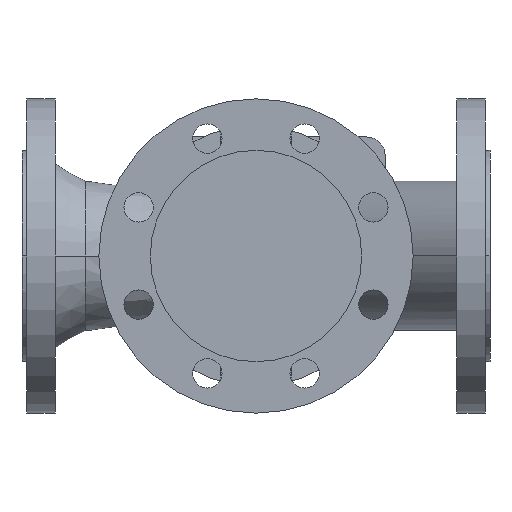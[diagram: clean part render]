
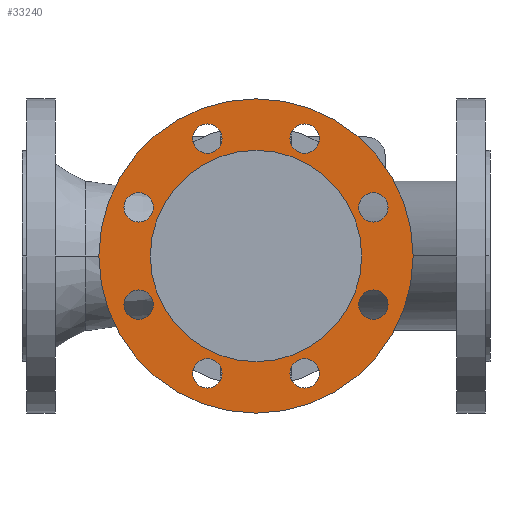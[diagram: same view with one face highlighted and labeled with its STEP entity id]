
A CAD part, front view. The second image highlights one B-rep face of the part: STEP entity #33240.
In plain terms, the highlighted planar face has unit normal (0, -1, 0).
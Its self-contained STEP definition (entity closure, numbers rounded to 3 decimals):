
#3320=CARTESIAN_POINT('',(96.,-146.5,0.));
#3330=VERTEX_POINT('',#3320);
#3380=CARTESIAN_POINT('',(175.,-146.5,0.));
#3390=DIRECTION('',(0.,-1.,0.));
#3400=DIRECTION('',(1.,0.,0.));
#3410=AXIS2_PLACEMENT_3D('',#3380,#3390,#3400);
#3420=CIRCLE('',#3410,79.);
#3430=CARTESIAN_POINT('',(254.,-146.5,0.));
#3440=VERTEX_POINT('',#3430);
#3450=EDGE_CURVE('',#3440,#3330,#3420,.T.);
#10480=CARTESIAN_POINT('',(57.5,-146.5,0.));
#10490=VERTEX_POINT('',#10480);
#10520=CARTESIAN_POINT('',(175.,-146.5,0.));
#10530=DIRECTION('',(0.,1.,0.));
#10540=DIRECTION('',(1.,0.,0.));
#10550=AXIS2_PLACEMENT_3D('',#10520,#10530,#10540);
#10560=CIRCLE('',#10550,117.5);
#10570=CARTESIAN_POINT('',(292.5,-146.5,0.));
#10580=VERTEX_POINT('',#10570);
#10590=EDGE_CURVE('',#10580,#10490,#10560,.T.);
#10900=CARTESIAN_POINT('',(273.769,-146.5,-36.355));
#10910=VERTEX_POINT('',#10900);
#10940=CARTESIAN_POINT('',(262.769,-146.5,-36.355));
#10950=DIRECTION('',(0.,1.,0.));
#10960=DIRECTION('',(1.,0.,0.));
#10970=AXIS2_PLACEMENT_3D('',#10940,#10950,#10960);
#10980=CIRCLE('',#10970,11.);
#10990=CARTESIAN_POINT('',(251.769,-146.5,-36.355));
#11000=VERTEX_POINT('',#10990);
#11010=EDGE_CURVE('',#10910,#11000,#10980,.T.);
#11320=CARTESIAN_POINT('',(273.769,-146.5,36.355));
#11330=VERTEX_POINT('',#11320);
#11490=CARTESIAN_POINT('',(251.769,-146.5,36.355));
#11500=VERTEX_POINT('',#11490);
#11530=CARTESIAN_POINT('',(262.769,-146.5,36.355));
#11540=DIRECTION('',(0.,1.,0.));
#11550=DIRECTION('',(1.,0.,0.));
#11560=AXIS2_PLACEMENT_3D('',#11530,#11540,#11550);
#11570=CIRCLE('',#11560,11.);
#11580=EDGE_CURVE('',#11500,#11330,#11570,.T.);
#11740=CARTESIAN_POINT('',(222.355,-146.5,-87.769));
#11750=VERTEX_POINT('',#11740);
#11780=CARTESIAN_POINT('',(211.355,-146.5,-87.769));
#11790=DIRECTION('',(0.,1.,0.));
#11800=DIRECTION('',(1.,0.,0.));
#11810=AXIS2_PLACEMENT_3D('',#11780,#11790,#11800);
#11820=CIRCLE('',#11810,11.);
#11830=CARTESIAN_POINT('',(200.355,-146.5,-87.769));
#11840=VERTEX_POINT('',#11830);
#11850=EDGE_CURVE('',#11750,#11840,#11820,.T.);
#12160=CARTESIAN_POINT('',(222.355,-146.5,87.769));
#12170=VERTEX_POINT('',#12160);
#12330=CARTESIAN_POINT('',(200.355,-146.5,87.769));
#12340=VERTEX_POINT('',#12330);
#12370=CARTESIAN_POINT('',(211.355,-146.5,87.769));
#12380=DIRECTION('',(0.,1.,0.));
#12390=DIRECTION('',(1.,0.,0.));
#12400=AXIS2_PLACEMENT_3D('',#12370,#12380,#12390);
#12410=CIRCLE('',#12400,11.);
#12420=EDGE_CURVE('',#12340,#12170,#12410,.T.);
#12580=CARTESIAN_POINT('',(127.645,-146.5,-87.769));
#12590=VERTEX_POINT('',#12580);
#12620=CARTESIAN_POINT('',(138.645,-146.5,-87.769));
#12630=DIRECTION('',(0.,1.,0.));
#12640=DIRECTION('',(1.,0.,0.));
#12650=AXIS2_PLACEMENT_3D('',#12620,#12630,#12640);
#12660=CIRCLE('',#12650,11.);
#12670=CARTESIAN_POINT('',(149.645,-146.5,-87.769));
#12680=VERTEX_POINT('',#12670);
#12690=EDGE_CURVE('',#12590,#12680,#12660,.T.);
#13000=CARTESIAN_POINT('',(149.645,-146.5,87.769));
#13010=VERTEX_POINT('',#13000);
#13040=CARTESIAN_POINT('',(138.645,-146.5,87.769));
#13050=DIRECTION('',(0.,1.,0.));
#13060=DIRECTION('',(1.,0.,0.));
#13070=AXIS2_PLACEMENT_3D('',#13040,#13050,#13060);
#13080=CIRCLE('',#13070,11.);
#13090=CARTESIAN_POINT('',(127.645,-146.5,87.769));
#13100=VERTEX_POINT('',#13090);
#13110=EDGE_CURVE('',#13010,#13100,#13080,.T.);
#13420=CARTESIAN_POINT('',(98.231,-146.5,-36.355));
#13430=VERTEX_POINT('',#13420);
#13590=CARTESIAN_POINT('',(76.231,-146.5,-36.355));
#13600=VERTEX_POINT('',#13590);
#13630=CARTESIAN_POINT('',(87.231,-146.5,-36.355));
#13640=DIRECTION('',(0.,1.,0.));
#13650=DIRECTION('',(1.,0.,0.));
#13660=AXIS2_PLACEMENT_3D('',#13630,#13640,#13650);
#13670=CIRCLE('',#13660,11.);
#13680=EDGE_CURVE('',#13600,#13430,#13670,.T.);
#13840=CARTESIAN_POINT('',(98.231,-146.5,36.355));
#13850=VERTEX_POINT('',#13840);
#13880=CARTESIAN_POINT('',(87.231,-146.5,36.355));
#13890=DIRECTION('',(0.,1.,0.));
#13900=DIRECTION('',(1.,0.,0.));
#13910=AXIS2_PLACEMENT_3D('',#13880,#13890,#13900);
#13920=CIRCLE('',#13910,11.);
#13930=CARTESIAN_POINT('',(76.231,-146.5,36.355));
#13940=VERTEX_POINT('',#13930);
#13950=EDGE_CURVE('',#13850,#13940,#13920,.T.);
#32690=CARTESIAN_POINT('',(175.,-146.5,0.));
#32700=DIRECTION('',(0.,1.,0.));
#32710=DIRECTION('',(0.,0.,1.));
#32720=AXIS2_PLACEMENT_3D('',#32690,#32700,#32710);
#32730=PLANE('',#32720);
#32740=EDGE_CURVE('',#13940,#13850,#13920,.T.);
#32750=ORIENTED_EDGE('',*,*,#32740,.T.);
#32760=ORIENTED_EDGE('',*,*,#13950,.T.);
#32770=EDGE_LOOP('',(#32760,#32750));
#32780=FACE_BOUND('',#32770,.T.);
#32790=EDGE_CURVE('',#13430,#13600,#13670,.T.);
#32800=ORIENTED_EDGE('',*,*,#32790,.T.);
#32810=ORIENTED_EDGE('',*,*,#13680,.T.);
#32820=EDGE_LOOP('',(#32810,#32800));
#32830=FACE_BOUND('',#32820,.T.);
#32840=EDGE_CURVE('',#13100,#13010,#13080,.T.);
#32850=ORIENTED_EDGE('',*,*,#32840,.T.);
#32860=ORIENTED_EDGE('',*,*,#13110,.T.);
#32870=EDGE_LOOP('',(#32860,#32850));
#32880=FACE_BOUND('',#32870,.T.);
#32890=ORIENTED_EDGE('',*,*,#12690,.T.);
#32900=EDGE_CURVE('',#12680,#12590,#12660,.T.);
#32910=ORIENTED_EDGE('',*,*,#32900,.T.);
#32920=EDGE_LOOP('',(#32910,#32890));
#32930=FACE_BOUND('',#32920,.T.);
#32940=EDGE_CURVE('',#12170,#12340,#12410,.T.);
#32950=ORIENTED_EDGE('',*,*,#32940,.T.);
#32960=ORIENTED_EDGE('',*,*,#12420,.T.);
#32970=EDGE_LOOP('',(#32960,#32950));
#32980=FACE_BOUND('',#32970,.T.);
#32990=ORIENTED_EDGE('',*,*,#11850,.T.);
#33000=EDGE_CURVE('',#11840,#11750,#11820,.T.);
#33010=ORIENTED_EDGE('',*,*,#33000,.T.);
#33020=EDGE_LOOP('',(#33010,#32990));
#33030=FACE_BOUND('',#33020,.T.);
#33040=EDGE_CURVE('',#11330,#11500,#11570,.T.);
#33050=ORIENTED_EDGE('',*,*,#33040,.T.);
#33060=ORIENTED_EDGE('',*,*,#11580,.T.);
#33070=EDGE_LOOP('',(#33060,#33050));
#33080=FACE_BOUND('',#33070,.T.);
#33090=EDGE_CURVE('',#11000,#10910,#10980,.T.);
#33100=ORIENTED_EDGE('',*,*,#33090,.T.);
#33110=ORIENTED_EDGE('',*,*,#11010,.T.);
#33120=EDGE_LOOP('',(#33110,#33100));
#33130=FACE_BOUND('',#33120,.T.);
#33140=ORIENTED_EDGE('',*,*,#10590,.F.);
#33150=EDGE_CURVE('',#10490,#10580,#10560,.T.);
#33160=ORIENTED_EDGE('',*,*,#33150,.F.);
#33170=EDGE_LOOP('',(#33160,#33140));
#33180=FACE_OUTER_BOUND('',#33170,.T.);
#33190=EDGE_CURVE('',#3330,#3440,#3420,.T.);
#33200=ORIENTED_EDGE('',*,*,#33190,.F.);
#33210=ORIENTED_EDGE('',*,*,#3450,.F.);
#33220=EDGE_LOOP('',(#33210,#33200));
#33230=FACE_BOUND('',#33220,.T.);
#33240=ADVANCED_FACE('',(#32780,#32830,#32880,#32930,#32980,#33030,
#33080,#33130,#33180,#33230),#32730,.F.);
